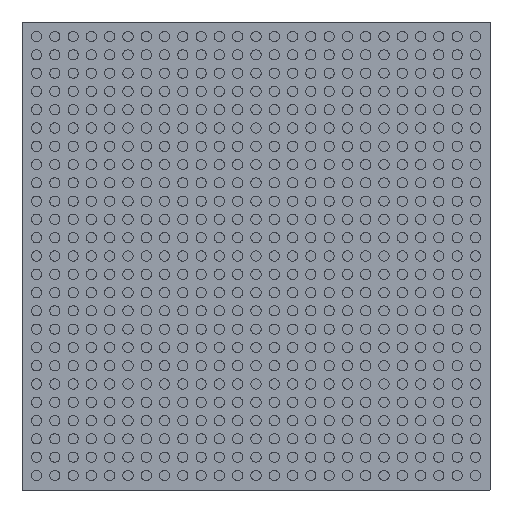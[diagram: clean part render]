
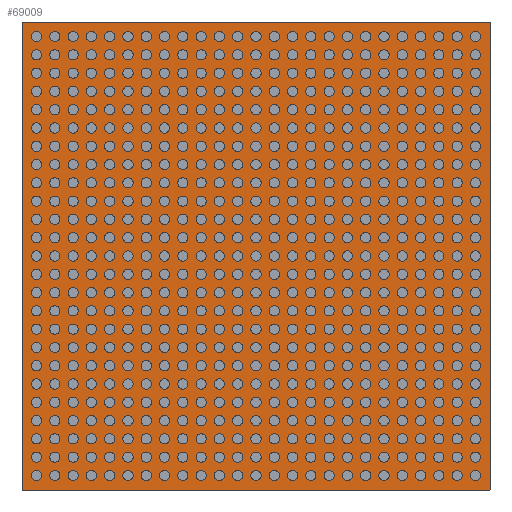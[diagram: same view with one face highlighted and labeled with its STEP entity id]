
A CAD part, front view. The second image highlights one B-rep face of the part: STEP entity #69009.
In plain terms, the highlighted planar face has unit normal (0, -1, 0).
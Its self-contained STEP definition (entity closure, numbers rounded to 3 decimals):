
#68770 = CARTESIAN_POINT ( 'NONE',  ( 16.23, 2.705, -16.25 ) ) ;
#68771 = VERTEX_POINT ( 'NONE', #68770 ) ;
#68772 = CARTESIAN_POINT ( 'NONE',  ( -16.211, 2.705, -16.25 ) ) ;
#68773 = VERTEX_POINT ( 'NONE', #68772 ) ;
#68774 = CARTESIAN_POINT ( 'NONE',  ( -16.25, 2.705, -16.25 ) ) ;
#68775 = DIRECTION ( 'NONE',  ( -1., 0., 0. ) ) ;
#68776 = VECTOR ( 'NONE', #68775, 39.37 ) ;
#68777 = LINE ( 'NONE', #68774, #68776 ) ;
#68778 = EDGE_CURVE ( 'NONE', #68771, #68773, #68777, .T. ) ;
#68860 = CARTESIAN_POINT ( 'NONE',  ( 16.25, 2.705, -16.23 ) ) ;
#68861 = VERTEX_POINT ( 'NONE', #68860 ) ;
#68868 = CARTESIAN_POINT ( 'NONE',  ( 16.23, 2.705, -16.25 ) ) ;
#68869 = DIRECTION ( 'NONE',  ( 0.707, 0., 0.707 ) ) ;
#68870 = VECTOR ( 'NONE', #68869, 39.37 ) ;
#68871 = LINE ( 'NONE', #68868, #68870 ) ;
#68872 = EDGE_CURVE ( 'NONE', #68771, #68861, #68871, .T. ) ;
#68954 = CARTESIAN_POINT ( 'NONE',  ( -16.25, 2.705, -16.211 ) ) ;
#68955 = VERTEX_POINT ( 'NONE', #68954 ) ;
#68956 = CARTESIAN_POINT ( 'NONE',  ( -16.25, 2.705, 16.23 ) ) ;
#68957 = VERTEX_POINT ( 'NONE', #68956 ) ;
#68958 = CARTESIAN_POINT ( 'NONE',  ( -16.25, 2.705, -16.25 ) ) ;
#68959 = DIRECTION ( 'NONE',  ( 0., 0., 1. ) ) ;
#68960 = VECTOR ( 'NONE', #68959, 39.37 ) ;
#68961 = LINE ( 'NONE', #68958, #68960 ) ;
#68962 = EDGE_CURVE ( 'NONE', #68955, #68957, #68961, .T. ) ;
#68963 = ORIENTED_EDGE ( 'NONE', *, *, #68962, .F. ) ;
#68964 = CARTESIAN_POINT ( 'NONE',  ( -16.25, 2.705, -16.211 ) ) ;
#68965 = DIRECTION ( 'NONE',  ( 0.707, 0., -0.707 ) ) ;
#68966 = VECTOR ( 'NONE', #68965, 39.37 ) ;
#68967 = LINE ( 'NONE', #68964, #68966 ) ;
#68968 = EDGE_CURVE ( 'NONE', #68955, #68773, #68967, .T. ) ;
#68969 = ORIENTED_EDGE ( 'NONE', *, *, #68968, .T. ) ;
#68970 = ORIENTED_EDGE ( 'NONE', *, *, #68778, .F. ) ;
#68971 = ORIENTED_EDGE ( 'NONE', *, *, #68872, .T. ) ;
#68972 = CARTESIAN_POINT ( 'NONE',  ( 16.25, 2.705, 16.23 ) ) ;
#68973 = VERTEX_POINT ( 'NONE', #68972 ) ;
#68974 = CARTESIAN_POINT ( 'NONE',  ( 16.25, 2.705, -16.25 ) ) ;
#68975 = DIRECTION ( 'NONE',  ( 0., 0., -1. ) ) ;
#68976 = VECTOR ( 'NONE', #68975, 39.37 ) ;
#68977 = LINE ( 'NONE', #68974, #68976 ) ;
#68978 = EDGE_CURVE ( 'NONE', #68973, #68861, #68977, .T. ) ;
#68979 = ORIENTED_EDGE ( 'NONE', *, *, #68978, .F. ) ;
#68980 = CARTESIAN_POINT ( 'NONE',  ( 16.23, 2.705, 16.25 ) ) ;
#68981 = VERTEX_POINT ( 'NONE', #68980 ) ;
#68982 = CARTESIAN_POINT ( 'NONE',  ( 16.25, 2.705, 16.23 ) ) ;
#68983 = DIRECTION ( 'NONE',  ( -0.707, 0., 0.707 ) ) ;
#68984 = VECTOR ( 'NONE', #68983, 39.37 ) ;
#68985 = LINE ( 'NONE', #68982, #68984 ) ;
#68986 = EDGE_CURVE ( 'NONE', #68973, #68981, #68985, .T. ) ;
#68987 = ORIENTED_EDGE ( 'NONE', *, *, #68986, .T. ) ;
#68988 = CARTESIAN_POINT ( 'NONE',  ( -16.23, 2.705, 16.25 ) ) ;
#68989 = VERTEX_POINT ( 'NONE', #68988 ) ;
#68990 = CARTESIAN_POINT ( 'NONE',  ( -16.25, 2.705, 16.25 ) ) ;
#68991 = DIRECTION ( 'NONE',  ( 1., 0., 0. ) ) ;
#68992 = VECTOR ( 'NONE', #68991, 39.37 ) ;
#68993 = LINE ( 'NONE', #68990, #68992 ) ;
#68994 = EDGE_CURVE ( 'NONE', #68989, #68981, #68993, .T. ) ;
#68995 = ORIENTED_EDGE ( 'NONE', *, *, #68994, .F. ) ;
#68996 = CARTESIAN_POINT ( 'NONE',  ( -16.23, 2.705, 16.25 ) ) ;
#68997 = DIRECTION ( 'NONE',  ( -0.707, 0., -0.707 ) ) ;
#68998 = VECTOR ( 'NONE', #68997, 39.37 ) ;
#68999 = LINE ( 'NONE', #68996, #68998 ) ;
#69000 = EDGE_CURVE ( 'NONE', #68989, #68957, #68999, .T. ) ;
#69001 = ORIENTED_EDGE ( 'NONE', *, *, #69000, .T. ) ;
#69002 = EDGE_LOOP ( 'NONE', ( #68963, #68969, #68970, #68971, #68979, #68987, #68995, #69001 ) ) ;
#69003 = FACE_OUTER_BOUND ( 'NONE', #69002, .T. ) ;
#69004 = CARTESIAN_POINT ( 'NONE',  ( -16.25, 2.705, 16.25 ) ) ;
#69005 = DIRECTION ( 'NONE',  ( 0., 1., 0. ) ) ;
#69006 = DIRECTION ( 'NONE',  ( 0., 0., 1. ) ) ;
#69007 = AXIS2_PLACEMENT_3D ( 'NONE', #69004, #69005, #69006 ) ;
#69008 = PLANE ( 'NONE', #69007 ) ;
#69009 = ADVANCED_FACE ( 'NONE', ( #69003 ), #69008, .F. ) ;
